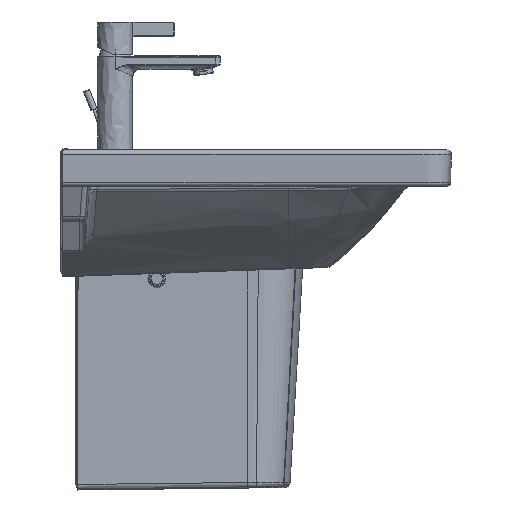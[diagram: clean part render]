
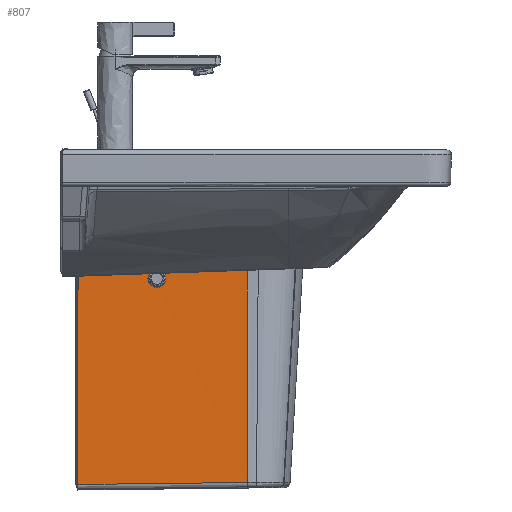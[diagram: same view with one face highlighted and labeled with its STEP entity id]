
A CAD part, left-side view. The second image highlights one B-rep face of the part: STEP entity #807.
In plain terms, the highlighted free-form (B-spline) face has degree [1, 5] with [2, 6] control points.
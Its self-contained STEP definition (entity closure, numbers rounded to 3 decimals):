
#90=FACE_BOUND('',#2336,.T.);
#807=ADVANCED_FACE('',(#1551,#90),#11070,.T.);
#1551=FACE_OUTER_BOUND('',#2335,.T.);
#2335=EDGE_LOOP('',(#5774,#5775,#5776,#5777));
#2336=EDGE_LOOP('',(#5778,#5779));
#5774=ORIENTED_EDGE('',*,*,#7611,.F.);
#5775=ORIENTED_EDGE('',*,*,#7565,.F.);
#5776=ORIENTED_EDGE('',*,*,#7610,.T.);
#5777=ORIENTED_EDGE('',*,*,#7634,.F.);
#5778=ORIENTED_EDGE('',*,*,#7667,.F.);
#5779=ORIENTED_EDGE('',*,*,#7664,.F.);
#7565=EDGE_CURVE('',#10465,#10466,#9341,.T.);
#7610=EDGE_CURVE('',#10465,#10500,#9383,.T.);
#7611=EDGE_CURVE('',#10466,#10501,#9384,.T.);
#7634=EDGE_CURVE('',#10501,#10500,#9407,.T.);
#7664=EDGE_CURVE('',#10503,#10502,#9437,.T.);
#7667=EDGE_CURVE('',#10502,#10503,#9440,.T.);
#9341=B_SPLINE_CURVE_WITH_KNOTS('',1,(#93269,#93270),.UNSPECIFIED.,.F.,
 .F.,(2,2),(0.,208.052),.UNSPECIFIED.);
#9383=B_SPLINE_CURVE_WITH_KNOTS('',5,(#93618,#93619,#93620,#93621,#93622,
#93623,#93624,#93625,#93626),.UNSPECIFIED.,.F.,.F.,(6,3,6),(82.052,
227.204,365.293),.UNSPECIFIED.);
#9384=B_SPLINE_CURVE_WITH_KNOTS('',1,(#93627,#93628),.UNSPECIFIED.,.F.,
 .F.,(2,2),(-290.099,-9.282),.UNSPECIFIED.);
#9407=B_SPLINE_CURVE_WITH_KNOTS('',4,(#93768,#93769,#93770,#93771,#93772),
 .UNSPECIFIED.,.F.,.F.,(5,5),(-104.033,104.033),
 .UNSPECIFIED.);
#9437=B_SPLINE_CURVE_WITH_KNOTS('',3,(#94073,#94074,#94075,#94076,#94077,
#94078,#94079,#94080,#94081,#94082,#94083,#94084,#94085,#94086,#94087,#94088,
#94089,#94090),.UNSPECIFIED.,.F.,.F.,(4,2,2,2,2,2,2,2,4),(-44.437,
-38.896,-33.354,-27.811,-22.264,
-16.676,-11.086,-5.539,0.),.UNSPECIFIED.);
#9440=B_SPLINE_CURVE_WITH_KNOTS('',3,(#94111,#94112,#94113,#94114,#94115,
#94116,#94117,#94118,#94119,#94120,#94121,#94122,#94123,#94124,#94125,#94126,
#94127,#94128),.UNSPECIFIED.,.F.,.F.,(4,2,2,2,2,2,2,2,4),(-44.437,
-38.892,-33.347,-27.782,-22.225,
-16.647,-11.062,-5.529,0.),.UNSPECIFIED.);
#10465=VERTEX_POINT('',#92996);
#10466=VERTEX_POINT('',#92997);
#10500=VERTEX_POINT('',#93031);
#10501=VERTEX_POINT('',#93032);
#10502=VERTEX_POINT('',#93033);
#10503=VERTEX_POINT('',#93034);
#11070=B_SPLINE_SURFACE_WITH_KNOTS('',1,5,((#91042,#91043,#91044,#91045,
#91046,#91047),(#91048,#91049,#91050,#91051,#91052,#91053)),
 .UNSPECIFIED.,.F.,.F.,.F.,(2,2),(6,6),(0.,290.099),(0.,211.052),
 .UNSPECIFIED.);
#91042=CARTESIAN_POINT('',(-76.214,10.657,-335.476));
#91043=CARTESIAN_POINT('',(-76.714,52.865,-335.476));
#91044=CARTESIAN_POINT('',(-77.214,95.072,-335.476));
#91045=CARTESIAN_POINT('',(-77.714,137.28,-335.476));
#91046=CARTESIAN_POINT('',(-78.214,179.487,-335.476));
#91047=CARTESIAN_POINT('',(-78.714,221.695,-335.476));
#91048=CARTESIAN_POINT('',(-83.863,10.567,-45.476));
#91049=CARTESIAN_POINT('',(-84.333,52.775,-45.476));
#91050=CARTESIAN_POINT('',(-84.803,94.982,-45.476));
#91051=CARTESIAN_POINT('',(-85.273,137.19,-45.476));
#91052=CARTESIAN_POINT('',(-85.743,179.398,-45.476));
#91053=CARTESIAN_POINT('',(-86.213,221.606,-45.476));
#92996=CARTESIAN_POINT('',(-86.179,218.606,-45.476));
#92997=CARTESIAN_POINT('',(-83.863,10.567,-45.476));
#93031=CARTESIAN_POINT('',(-78.855,218.693,-328.623));
#93032=CARTESIAN_POINT('',(-76.458,10.654,-326.197));
#93033=CARTESIAN_POINT('',(-84.429,131.695,-75.476));
#93034=CARTESIAN_POINT('',(-84.205,111.695,-75.476));
#93269=CARTESIAN_POINT('',(-86.179,218.606,-45.476));
#93270=CARTESIAN_POINT('',(-83.863,10.567,-45.476));
#93618=CARTESIAN_POINT('',(-86.179,218.606,-45.476));
#93619=CARTESIAN_POINT('',(-85.429,218.615,-74.497));
#93620=CARTESIAN_POINT('',(-84.678,218.624,-103.517));
#93621=CARTESIAN_POINT('',(-83.927,218.633,-132.538));
#93622=CARTESIAN_POINT('',(-82.463,218.65,-189.167));
#93623=CARTESIAN_POINT('',(-80.998,218.667,-245.797));
#93624=CARTESIAN_POINT('',(-80.284,218.676,-273.405));
#93625=CARTESIAN_POINT('',(-79.57,218.684,-301.014));
#93626=CARTESIAN_POINT('',(-78.855,218.693,-328.623));
#93627=CARTESIAN_POINT('',(-83.863,10.567,-45.476));
#93628=CARTESIAN_POINT('',(-76.458,10.654,-326.197));
#93768=CARTESIAN_POINT('',(-76.458,10.654,-326.197));
#93769=CARTESIAN_POINT('',(-77.057,62.664,-326.803));
#93770=CARTESIAN_POINT('',(-77.657,114.674,-327.41));
#93771=CARTESIAN_POINT('',(-78.256,166.683,-328.016));
#93772=CARTESIAN_POINT('',(-78.855,218.693,-328.623));
#94073=CARTESIAN_POINT('',(-84.205,111.695,-75.476));
#94074=CARTESIAN_POINT('',(-84.239,111.695,-74.184));
#94075=CARTESIAN_POINT('',(-84.275,111.947,-72.9));
#94076=CARTESIAN_POINT('',(-84.348,112.914,-70.521));
#94077=CARTESIAN_POINT('',(-84.385,113.629,-69.426));
#94078=CARTESIAN_POINT('',(-84.453,115.429,-67.576));
#94079=CARTESIAN_POINT('',(-84.485,116.514,-66.823));
#94080=CARTESIAN_POINT('',(-84.539,118.915,-65.781));
#94081=CARTESIAN_POINT('',(-84.561,120.224,-65.496));
#94082=CARTESIAN_POINT('',(-84.592,122.89,-65.458));
#94083=CARTESIAN_POINT('',(-84.6,124.222,-65.71));
#94084=CARTESIAN_POINT('',(-84.602,126.684,-66.708));
#94085=CARTESIAN_POINT('',(-84.595,127.815,-67.455));
#94086=CARTESIAN_POINT('',(-84.567,129.704,-69.343));
#94087=CARTESIAN_POINT('',(-84.546,130.445,-70.461));
#94088=CARTESIAN_POINT('',(-84.494,131.442,-72.885));
#94089=CARTESIAN_POINT('',(-84.463,131.695,-74.184));
#94090=CARTESIAN_POINT('',(-84.429,131.695,-75.476));
#94111=CARTESIAN_POINT('',(-84.429,131.695,-75.476));
#94112=CARTESIAN_POINT('',(-84.396,131.695,-76.768));
#94113=CARTESIAN_POINT('',(-84.359,131.442,-78.052));
#94114=CARTESIAN_POINT('',(-84.286,130.475,-80.431));
#94115=CARTESIAN_POINT('',(-84.25,129.76,-81.527));
#94116=CARTESIAN_POINT('',(-84.181,127.957,-83.379));
#94117=CARTESIAN_POINT('',(-84.149,126.871,-84.131));
#94118=CARTESIAN_POINT('',(-84.095,124.477,-85.169));
#94119=CARTESIAN_POINT('',(-84.073,123.17,-85.456));
#94120=CARTESIAN_POINT('',(-84.042,120.5,-85.494));
#94121=CARTESIAN_POINT('',(-84.034,119.167,-85.242));
#94122=CARTESIAN_POINT('',(-84.032,116.704,-84.243));
#94123=CARTESIAN_POINT('',(-84.039,115.572,-83.496));
#94124=CARTESIAN_POINT('',(-84.067,113.684,-81.607));
#94125=CARTESIAN_POINT('',(-84.088,112.944,-80.49));
#94126=CARTESIAN_POINT('',(-84.14,111.948,-78.067));
#94127=CARTESIAN_POINT('',(-84.171,111.695,-76.768));
#94128=CARTESIAN_POINT('',(-84.205,111.695,-75.476));
